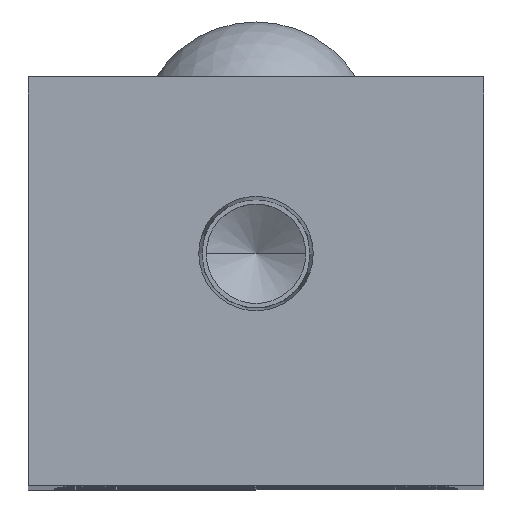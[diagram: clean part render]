
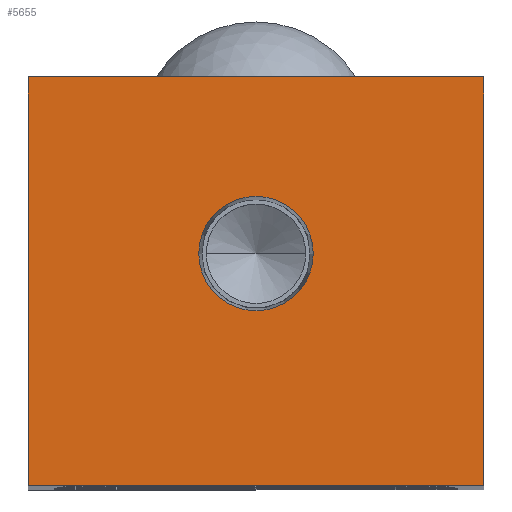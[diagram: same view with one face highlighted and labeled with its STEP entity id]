
A CAD part, top view. The second image highlights one B-rep face of the part: STEP entity #5655.
In plain terms, the highlighted planar face has unit normal (0, 0, 1).
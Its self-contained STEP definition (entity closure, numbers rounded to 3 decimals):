
#104 = VERTEX_POINT ( 'NONE', #4088 ) ;
#450 = ORIENTED_EDGE ( 'NONE', *, *, #6118, .T. ) ;
#552 = DIRECTION ( 'NONE',  ( 0., -1., 0. ) ) ;
#994 = ORIENTED_EDGE ( 'NONE', *, *, #4531, .T. ) ;
#1093 = CARTESIAN_POINT ( 'NONE',  ( 6.154, 25., 0. ) ) ;
#1461 = DIRECTION ( 'NONE',  ( 0., 0., -1. ) ) ;
#1462 = VERTEX_POINT ( 'NONE', #2770 ) ;
#1555 = CIRCLE ( 'NONE', #6296, 6.154 ) ;
#1808 = DIRECTION ( 'NONE',  ( 0., 0., 1. ) ) ;
#1841 = ORIENTED_EDGE ( 'NONE', *, *, #4499, .F. ) ;
#2163 = DIRECTION ( 'NONE',  ( 1., 0., 0. ) ) ;
#2196 = VERTEX_POINT ( 'NONE', #3064 ) ;
#2294 = EDGE_CURVE ( 'NONE', #1462, #5805, #1555, .T. ) ;
#2418 = CARTESIAN_POINT ( 'NONE',  ( -24.5, 44., 0. ) ) ;
#2611 = DIRECTION ( 'NONE',  ( 0., 0., 1. ) ) ;
#2757 = CARTESIAN_POINT ( 'NONE',  ( 24.5, 0., 0. ) ) ;
#2770 = CARTESIAN_POINT ( 'NONE',  ( -6.154, 25., 0. ) ) ;
#2793 = LINE ( 'NONE', #4102, #3655 ) ;
#2929 = DIRECTION ( 'NONE',  ( -1., 0., 0. ) ) ;
#2978 = CARTESIAN_POINT ( 'NONE',  ( 0., 0., 0. ) ) ;
#3057 = CARTESIAN_POINT ( 'NONE',  ( 24.5, 44., 0. ) ) ;
#3064 = CARTESIAN_POINT ( 'NONE',  ( -24.5, 0., 0. ) ) ;
#3126 = VERTEX_POINT ( 'NONE', #2757 ) ;
#3299 = LINE ( 'NONE', #3057, #4486 ) ;
#3424 = CARTESIAN_POINT ( 'NONE',  ( -24.5, 44., 0. ) ) ;
#3533 = VECTOR ( 'NONE', #2929, 1000. ) ;
#3655 = VECTOR ( 'NONE', #552, 1000. ) ;
#3682 = CARTESIAN_POINT ( 'NONE',  ( 24.5, 0., 0. ) ) ;
#3854 = EDGE_CURVE ( 'NONE', #3126, #104, #3299, .T. ) ;
#3932 = AXIS2_PLACEMENT_3D ( 'NONE', #5666, #2611, #6173 ) ;
#3964 = PLANE ( 'NONE',  #4591 ) ;
#3969 = FACE_BOUND ( 'NONE', #6321, .T. ) ;
#4054 = ORIENTED_EDGE ( 'NONE', *, *, #3854, .T. ) ;
#4068 = DIRECTION ( 'NONE',  ( 0., 1., 0. ) ) ;
#4088 = CARTESIAN_POINT ( 'NONE',  ( 24.5, 44., 0. ) ) ;
#4102 = CARTESIAN_POINT ( 'NONE',  ( -24.5, 0., 0. ) ) ;
#4262 = EDGE_CURVE ( 'NONE', #104, #4862, #6088, .T. ) ;
#4486 = VECTOR ( 'NONE', #4068, 1000. ) ;
#4487 = LINE ( 'NONE', #3682, #5868 ) ;
#4499 = EDGE_CURVE ( 'NONE', #5805, #1462, #6334, .T. ) ;
#4531 = EDGE_CURVE ( 'NONE', #2196, #3126, #4487, .T. ) ;
#4591 = AXIS2_PLACEMENT_3D ( 'NONE', #2978, #1461, #5035 ) ;
#4856 = CARTESIAN_POINT ( 'NONE',  ( 0., 25., 0. ) ) ;
#4862 = VERTEX_POINT ( 'NONE', #3424 ) ;
#5035 = DIRECTION ( 'NONE',  ( -1., 0., 0. ) ) ;
#5210 = EDGE_LOOP ( 'NONE', ( #450, #994, #4054, #5912 ) ) ;
#5392 = DIRECTION ( 'NONE',  ( 1., 0., 0. ) ) ;
#5655 = ADVANCED_FACE ( 'NONE', ( #3969, #6519 ), #3964, .F. ) ;
#5666 = CARTESIAN_POINT ( 'NONE',  ( 0., 25., 0. ) ) ;
#5805 = VERTEX_POINT ( 'NONE', #1093 ) ;
#5868 = VECTOR ( 'NONE', #2163, 1000. ) ;
#5912 = ORIENTED_EDGE ( 'NONE', *, *, #4262, .T. ) ;
#6088 = LINE ( 'NONE', #2418, #3533 ) ;
#6118 = EDGE_CURVE ( 'NONE', #4862, #2196, #2793, .T. ) ;
#6173 = DIRECTION ( 'NONE',  ( 1., 0., 0. ) ) ;
#6296 = AXIS2_PLACEMENT_3D ( 'NONE', #4856, #1808, #5392 ) ;
#6321 = EDGE_LOOP ( 'NONE', ( #1841, #6454 ) ) ;
#6334 = CIRCLE ( 'NONE', #3932, 6.154 ) ;
#6454 = ORIENTED_EDGE ( 'NONE', *, *, #2294, .F. ) ;
#6519 = FACE_OUTER_BOUND ( 'NONE', #5210, .T. ) ;
